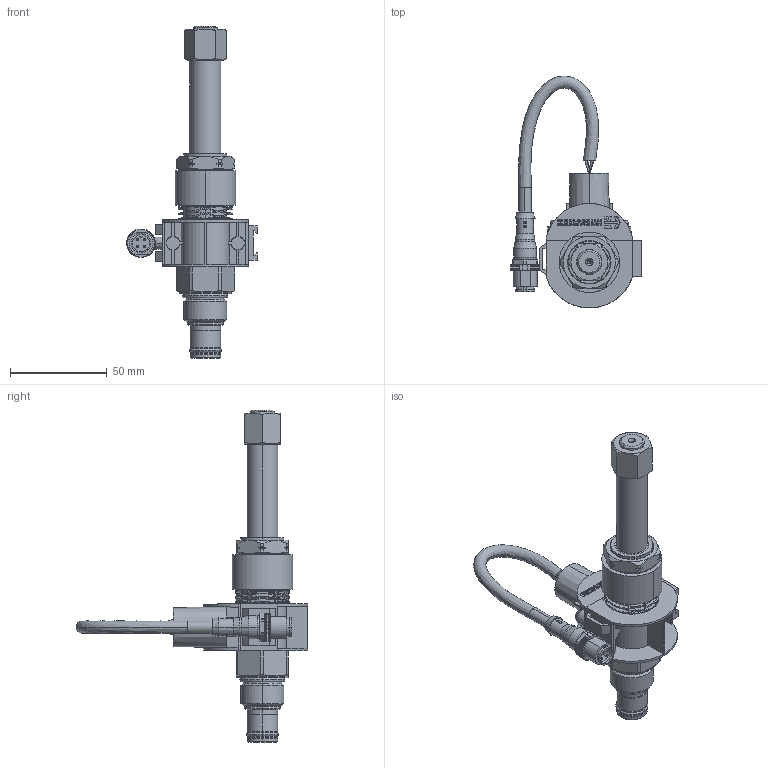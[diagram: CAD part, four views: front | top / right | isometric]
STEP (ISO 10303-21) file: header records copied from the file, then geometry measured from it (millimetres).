
FILE_DESCRIPTION((''),'2;1');
FILE_NAME('ASM0002_ASM','2021-06-23T15:34:30',('AB7'),(''),'CREO PARAMETRIC BY PTC INC, 2018020','CREO PARAMETRIC BY PTC INC, 2018020','');
FILE_SCHEMA(('CONFIG_CONTROL_DESIGN'));
Products named in the file (3): HSV10-P23A; PRT0006; ASM0002_ASM
Assembly tree (2 placements, depth 2):
  ASM0002_ASM
    HSV10-P23A
    PRT0006
Bounding box: 67.48 x 119.95 x 171.7 mm (x, y, z)
Volume: 95636.5 mm3; surface area: 41679.2 mm2
Topology: 2 solids, 2 shells, 1091 faces, 3058 edges, 1990 vertices
Faces by surface type: plane 500, cylinder 317, cone 96, bspline 78, extrusion 64, torus 28, revolution 8
Entity records: 45047 total; most frequent: CARTESIAN_POINT 18086, ORIENTED_EDGE 6104, DIRECTION 4819, EDGE_CURVE 3052, VERTEX_POINT 1990, VECTOR 1709, LINE 1645, AXIS2_PLACEMENT_3D 1551
